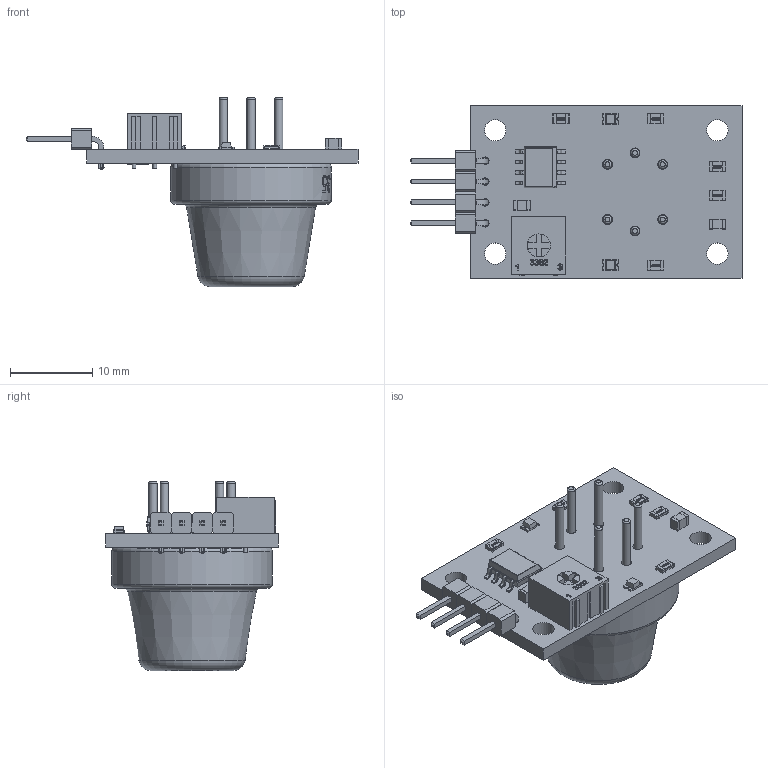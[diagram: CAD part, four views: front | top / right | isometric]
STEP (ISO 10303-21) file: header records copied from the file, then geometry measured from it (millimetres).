
FILE_DESCRIPTION (( 'STEP AP214' ), '1' );
FILE_NAME ('MQ135_MH_sensor_with_socket_pins_90grd.STEP', '2024-08-23T07:48:12', ( '' ), ( '' ), 'SwSTEP 2.0', 'SolidWorks 2023', '' );
FILE_SCHEMA (( 'AUTOMOTIVE_DESIGN' ));
Length unit declared in the file: millimetre
Products named in the file (10): Trimpot 3362P; LED-0805-green; LED-0805-red; Stiftleiste_Male_90_1; WID_smd_0805; С_0805; MQ135_Sensor_TypA; mq135_MH-Sensor_flying_fish_pcb; SOIC08 narrow; MQ135_MH_sensor_with_socket_pins_90grd
Assembly tree (17 placements, depth 2):
  MQ135_MH_sensor_with_socket_pins_90grd
    mq135_MH-Sensor_flying_fish_pcb
    Trimpot 3362P
    MQ135_Sensor_TypA
    WID_smd_0805  x5
    LED-0805-green
    LED-0805-red
    С_0805  x2
    SOIC08 narrow
    Stiftleiste_Male_90_1  x4
Bounding box: 40.36 x 21 x 23 mm (x, y, z)
Volume: 4546.3 mm3; surface area: 3760.4 mm2
Topology: 60 solids, 60 shells, 2107 faces, 5290 edges, 3329 vertices
Faces by surface type: bspline 845, plane 835, cylinder 288, sphere 128, torus 10, cone 1
Full cylindrical faces by diameter (mm): 0.46 x3, 0.9 x4, 1 x6, 1.2 x6, 2.6 x4, 2.8 x2, 19.5 x1
Entity records: 59375 total; most frequent: CARTESIAN_POINT 23210, ORIENTED_EDGE 6138, DIRECTION 4150, EDGE_CURVE 3069, VERTEX_POINT 1917, LINE 1476, VECTOR 1476, EDGE_LOOP 1442
